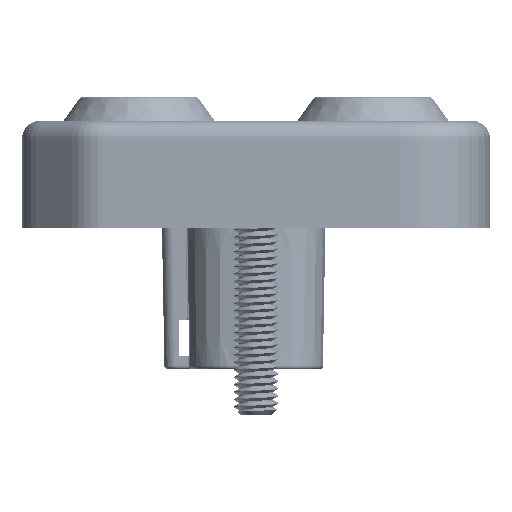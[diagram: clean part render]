
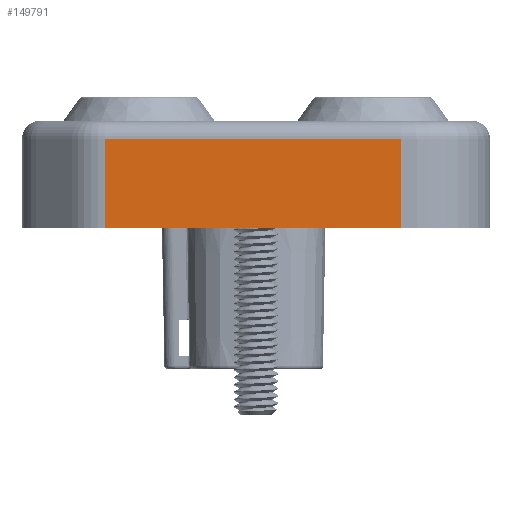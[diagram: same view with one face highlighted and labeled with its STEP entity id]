
A CAD part, left-side view. The second image highlights one B-rep face of the part: STEP entity #149791.
In plain terms, the highlighted planar face has unit normal (-1, 0, 0) as drawn and (1, 0, 0) by its records, which use the part's own axes.
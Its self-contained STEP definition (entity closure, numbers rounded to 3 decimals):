
#399 = ORIENTED_EDGE ( 'NONE', *, *, #10148, .T. ) ;
#3402 = VECTOR ( 'NONE', #427327, 1000. ) ;
#10148 = EDGE_CURVE ( 'NONE', #332208, #174172, #341274, .T. ) ;
#23686 = CARTESIAN_POINT ( 'NONE',  ( 87.313, -2.54, 20.484 ) ) ;
#43536 = CARTESIAN_POINT ( 'NONE',  ( 87.313, -14.542, 20.484 ) ) ;
#44008 = ORIENTED_EDGE ( 'NONE', *, *, #380205, .F. ) ;
#45744 = CARTESIAN_POINT ( 'NONE',  ( 87.313, -2.54, -19.685 ) ) ;
#55852 = DIRECTION ( 'NONE',  ( 0., 0., 1. ) ) ;
#61945 = FACE_OUTER_BOUND ( 'NONE', #414064, .T. ) ;
#79647 = ORIENTED_EDGE ( 'NONE', *, *, #137677, .T. ) ;
#117357 = CARTESIAN_POINT ( 'NONE',  ( 87.313, -4.763, 20.484 ) ) ;
#123124 = VECTOR ( 'NONE', #55852, 1000. ) ;
#123788 = AXIS2_PLACEMENT_3D ( 'NONE', #558802, #242252, #503792 ) ;
#137677 = EDGE_CURVE ( 'NONE', #256787, #435701, #288856, .T. ) ;
#149791 = ADVANCED_FACE ( 'NONE', ( #61945 ), #463249, .F. ) ;
#149889 = ORIENTED_EDGE ( 'NONE', *, *, #485264, .T. ) ;
#157156 = CARTESIAN_POINT ( 'NONE',  ( 87.313, -2.54, 20.484 ) ) ;
#157374 = LINE ( 'NONE', #23686, #123124 ) ;
#171273 = LINE ( 'NONE', #348682, #3402 ) ;
#174172 = VERTEX_POINT ( 'NONE', #43536 ) ;
#178526 = CARTESIAN_POINT ( 'NONE',  ( 87.313, -14.542, -19.685 ) ) ;
#238419 = VECTOR ( 'NONE', #286020, 1000. ) ;
#242252 = DIRECTION ( 'NONE',  ( -1., 0., 0. ) ) ;
#256787 = VERTEX_POINT ( 'NONE', #178526 ) ;
#286020 = DIRECTION ( 'NONE',  ( 0., 1., 0. ) ) ;
#288856 = LINE ( 'NONE', #335313, #238419 ) ;
#332208 = VERTEX_POINT ( 'NONE', #157156 ) ;
#333747 = VECTOR ( 'NONE', #553345, 1000. ) ;
#335313 = CARTESIAN_POINT ( 'NONE',  ( 87.313, -4.763, -19.685 ) ) ;
#341274 = LINE ( 'NONE', #117357, #333747 ) ;
#348682 = CARTESIAN_POINT ( 'NONE',  ( 87.313, -14.542, -31.75 ) ) ;
#380205 = EDGE_CURVE ( 'NONE', #256787, #174172, #171273, .T. ) ;
#414064 = EDGE_LOOP ( 'NONE', ( #79647, #149889, #399, #44008 ) ) ;
#427327 = DIRECTION ( 'NONE',  ( 0., 0., 1. ) ) ;
#435701 = VERTEX_POINT ( 'NONE', #45744 ) ;
#463249 = PLANE ( 'NONE',  #123788 ) ;
#485264 = EDGE_CURVE ( 'NONE', #435701, #332208, #157374, .T. ) ;
#503792 = DIRECTION ( 'NONE',  ( 0., 0., 1. ) ) ;
#553345 = DIRECTION ( 'NONE',  ( 0., -1., 0. ) ) ;
#558802 = CARTESIAN_POINT ( 'NONE',  ( 87.313, -4.763, -31.75 ) ) ;
